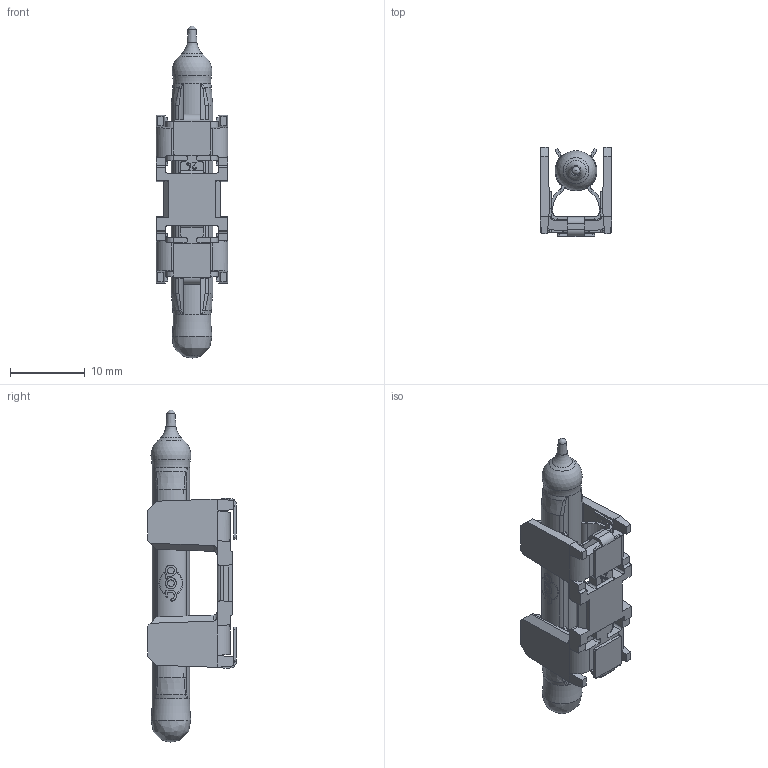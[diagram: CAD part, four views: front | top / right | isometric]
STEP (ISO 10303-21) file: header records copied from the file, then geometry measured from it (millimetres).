
FILE_DESCRIPTION(/* description */ (''),/* implementation_level */ '2;1');
FILE_NAME(/* name */ 'N:\KONSTR\PROJEKTE\E-Bulb\E-Bulb Freigegebene Kunden Zeichnungen\Zusammenbau Zeichnungen\E-Bulb 5x40 SMD\40-068-54-160-E-Bulb-5x40-SMD.stp',/* time_stamp */ '2020-01-17T09:44:48+01:00',/* author */ ('lessling'),/* organization */ (''),/* preprocessor_version */ 'ST-DEVELOPER v17.2',/* originating_system */ 'Autodesk Inventor 2019',/* authorisation */ '');
FILE_SCHEMA (('AUTOMOTIVE_DESIGN { 1 0 10303 214 3 1 1 }'));
Length unit declared in the file: millimetre
Products named in the file (3): 40-068-54-160; 40-068-10-25; 40-068-54-50
Assembly tree (2 placements, depth 2):
  40-068-54-160
    40-068-10-25
    40-068-54-50
Bounding box: 9.6 x 11.9 x 44.4 mm (x, y, z)
Volume: 1510.5 mm3; surface area: 2438.1 mm2
Topology: 4 solids, 4 shells, 619 faces, 1615 edges, 1007 vertices
Faces by surface type: plane 392, cylinder 137, bspline 75, cone 10, torus 3, sphere 2
Entity records: 21390 total; most frequent: CARTESIAN_POINT 6115, ORIENTED_EDGE 3230, DIRECTION 2824, EDGE_CURVE 1615, LINE 1096, VECTOR 1096, VERTEX_POINT 1007, AXIS2_PLACEMENT_3D 864
